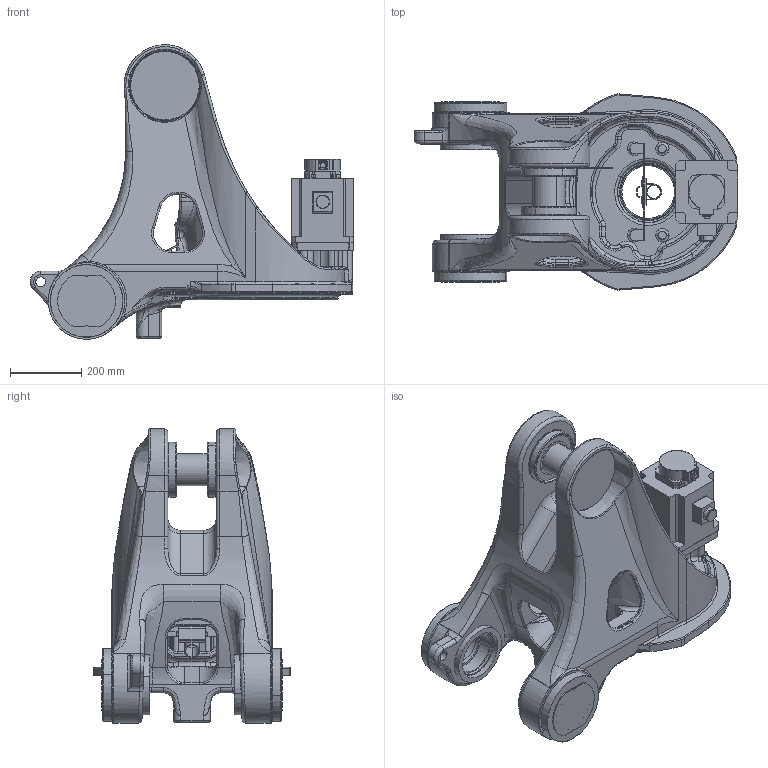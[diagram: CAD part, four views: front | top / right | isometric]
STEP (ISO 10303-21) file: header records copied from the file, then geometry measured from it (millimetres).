
FILE_DESCRIPTION(('CATIA V5 STEP Exchange','CAx-IF Rec.Pracs.--- Model Styling and Organization---1.2---2011-12-15','CAx-IF Rec.Pracs.--- Geometric and Assembly Validation Properties ---3.1---2011-10-19'),'2;1');
FILE_NAME('Z:\ROBOT\CATIA06\products\MC1000DL\Light_model\Step\100_J4Wrist_MC1000DL-02.stp','2016-12-26T04:04:47+00:00',('none'),('none'),'Version 5-6 Release 2012','CATIA V5 STEP AP214','none');
FILE_SCHEMA(('AUTOMOTIVE_DESIGN { 1 0 10303 214 1 1 1 1 }'));
Length unit declared in the file: millimetre
Products named in the file (1): 100_J4Wrist_MC1000DL-02
Bounding box: 912.32 x 552.36 x 829.03 mm (x, y, z)
Volume: 43301231.1 mm3; surface area: 3892124.3 mm2
Topology: 30 solids, 34 shells, 2313 faces, 5667 edges, 3389 vertices
Faces by surface type: bspline 699, plane 618, cylinder 578, torus 231, cone 153, sphere 18, extrusion 16
Entity records: 122489 total; most frequent: CARTESIAN_POINT 76260, ORIENTED_EDGE 11154, DIRECTION 5816, EDGE_CURVE 5585, VERTEX_POINT 3389, AXIS2_PLACEMENT_3D 2828, EDGE_LOOP 2422, B_SPLINE_CURVE_WITH_KNOTS 2333
